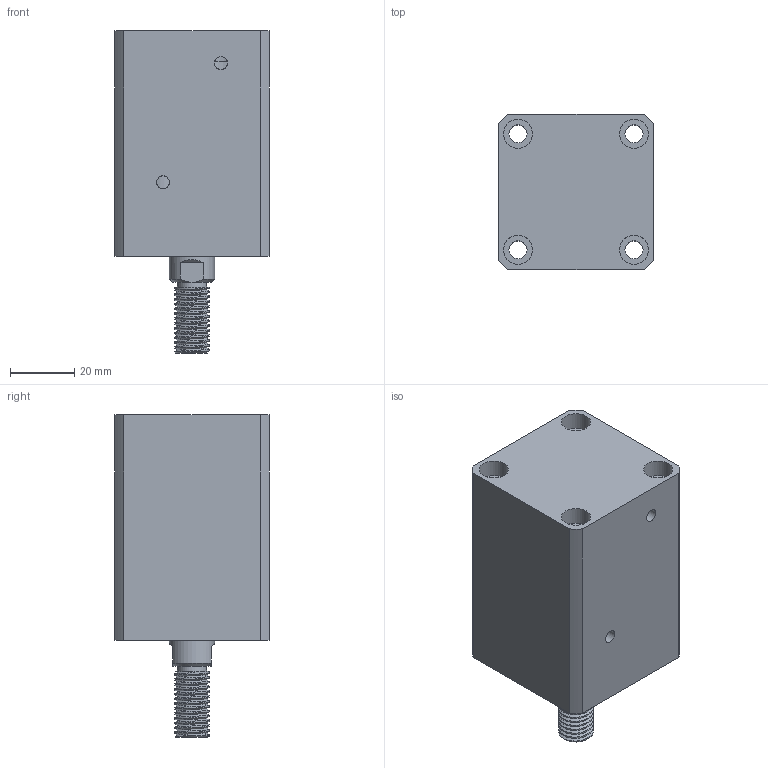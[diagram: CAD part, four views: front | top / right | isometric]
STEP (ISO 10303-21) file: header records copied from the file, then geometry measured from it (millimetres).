
FILE_DESCRIPTION(/* description */ (''),/* implementation_level */ '2;1');
FILE_NAME(/* name */ 'CHTB-sdma25x25w.stp',/* time_stamp */ '2022-04-29T15:02:16+08:00',/* author */ (''),/* organization */ (''),/* preprocessor_version */ 'ST-DEVELOPER v16.7',/* originating_system */ 'SIEMENS PLM Software NX 12.0',/* authorisation */ '');
FILE_SCHEMA (('AUTOMOTIVE_DESIGN { 1 0 10303 214 3 1 1 1 }'));
Length unit declared in the file: millimetre
Products named in the file (1): CHTB-sdma25x25w
Bounding box: 48 x 48 x 100 mm (x, y, z)
Volume: 144358.2 mm3; surface area: 40115.4 mm2
Topology: 3 solids, 3 shells, 489 faces, 1362 edges, 926 vertices
Faces by surface type: plane 314, extrusion 116, cylinder 43, bspline 10, cone 5, torus 1
Full cylindrical faces by diameter (mm): 2.5 x2, 3 x2, 4 x2, 5.6 x4, 7 x2, 9 x9, 14 x2, 21 x2, 23 x2, 25 x5, 31 x1
Entity records: 24362 total; most frequent: CARTESIAN_POINT 9767, ORIENTED_EDGE 2626, DIRECTION 1918, EDGE_CURVE 1313, VECTOR 1016, VERTEX_POINT 915, LINE 900, EDGE_LOOP 590
